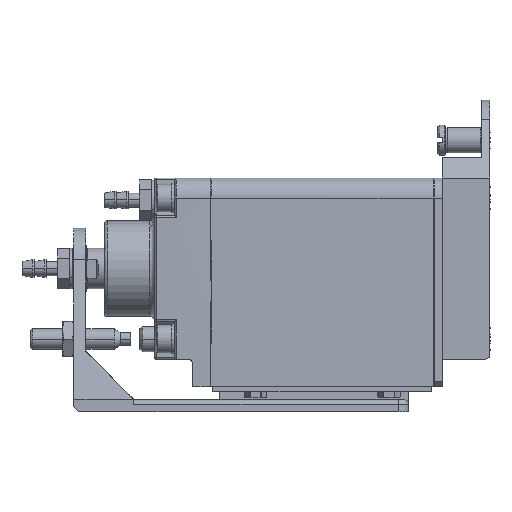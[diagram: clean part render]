
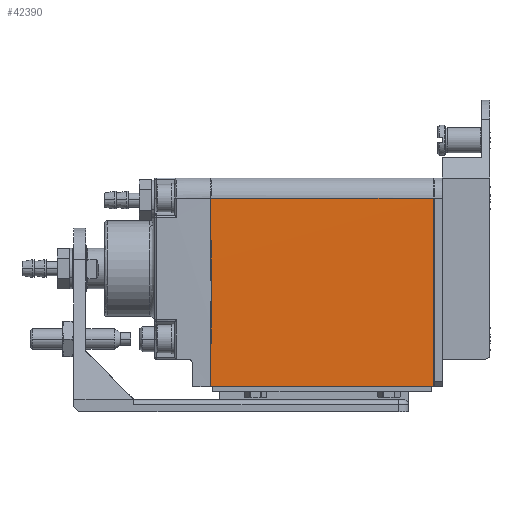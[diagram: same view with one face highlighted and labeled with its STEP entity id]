
A CAD part, left-side view. The second image highlights one B-rep face of the part: STEP entity #42390.
In plain terms, the highlighted planar face has unit normal (-1, 0, 0).
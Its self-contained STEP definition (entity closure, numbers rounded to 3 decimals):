
#1071 = ORIENTED_EDGE ( 'NONE', *, *, #35777, .T. ) ;
#2296 = DIRECTION ( 'NONE',  ( 0., 1., 0. ) ) ;
#2557 = VECTOR ( 'NONE', #35375, 1000. ) ;
#5114 = CARTESIAN_POINT ( 'NONE',  ( -13.933, 44.433, -23.5 ) ) ;
#5972 = VECTOR ( 'NONE', #42653, 1000. ) ;
#9153 = EDGE_CURVE ( 'NONE', #43807, #43724, #36092, .T. ) ;
#9459 = LINE ( 'NONE', #33790, #47523 ) ;
#16447 = VECTOR ( 'NONE', #2296, 1000. ) ;
#16852 = CARTESIAN_POINT ( 'NONE',  ( -14., 22.25, -23.5 ) ) ;
#16966 = DIRECTION ( 'NONE',  ( -1., 0., 0. ) ) ;
#17995 = EDGE_CURVE ( 'NONE', #20019, #43807, #9459, .T. ) ;
#19229 = ORIENTED_EDGE ( 'NONE', *, *, #9153, .T. ) ;
#20019 = VERTEX_POINT ( 'NONE', #40840 ) ;
#22449 = CARTESIAN_POINT ( 'NONE',  ( -14., 0.2, 14. ) ) ;
#22654 = EDGE_LOOP ( 'NONE', ( #40910, #19229, #1071, #42403 ) ) ;
#24356 = VERTEX_POINT ( 'NONE', #5114 ) ;
#25566 = LINE ( 'NONE', #16852, #5972 ) ;
#26586 = CARTESIAN_POINT ( 'NONE',  ( -14., 22.25, 14. ) ) ;
#26589 = DIRECTION ( 'NONE',  ( 0., 0., 1. ) ) ;
#31358 = FACE_OUTER_BOUND ( 'NONE', #22654, .T. ) ;
#32168 = CARTESIAN_POINT ( 'NONE',  ( -13.95, 44.425, 14. ) ) ;
#33790 = CARTESIAN_POINT ( 'NONE',  ( -14., 0.2, -4.75 ) ) ;
#35375 = DIRECTION ( 'NONE',  ( 0., 0., -1. ) ) ;
#35777 = EDGE_CURVE ( 'NONE', #43724, #24356, #40537, .T. ) ;
#36092 = LINE ( 'NONE', #26586, #16447 ) ;
#38963 = PLANE ( 'NONE',  #47522 ) ;
#39113 = CARTESIAN_POINT ( 'NONE',  ( -14., -4.21, -27.25 ) ) ;
#40537 = LINE ( 'NONE', #42451, #2557 ) ;
#40840 = CARTESIAN_POINT ( 'NONE',  ( -14., 0.2, -23.5 ) ) ;
#40910 = ORIENTED_EDGE ( 'NONE', *, *, #17995, .T. ) ;
#42390 = ADVANCED_FACE ( 'NONE', ( #31358 ), #38963, .T. ) ;
#42403 = ORIENTED_EDGE ( 'NONE', *, *, #43199, .F. ) ;
#42451 = CARTESIAN_POINT ( 'NONE',  ( -14., 44.3, -4.75 ) ) ;
#42653 = DIRECTION ( 'NONE',  ( 0., 1., 0. ) ) ;
#42764 = DIRECTION ( 'NONE',  ( 0., 0., 1. ) ) ;
#43199 = EDGE_CURVE ( 'NONE', #20019, #24356, #25566, .T. ) ;
#43724 = VERTEX_POINT ( 'NONE', #32168 ) ;
#43807 = VERTEX_POINT ( 'NONE', #22449 ) ;
#47522 = AXIS2_PLACEMENT_3D ( 'NONE', #39113, #16966, #42764 ) ;
#47523 = VECTOR ( 'NONE', #26589, 1000. ) ;
